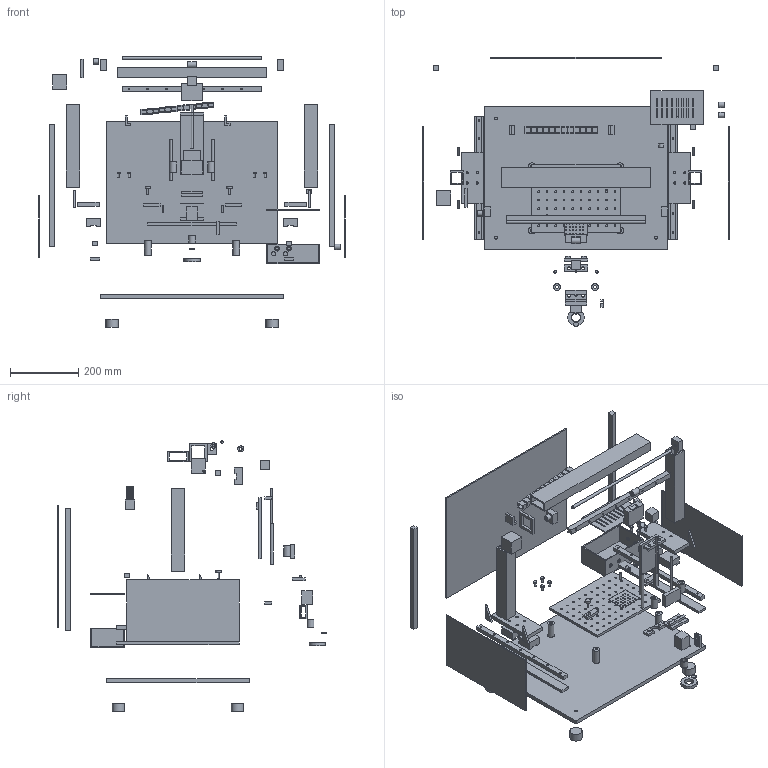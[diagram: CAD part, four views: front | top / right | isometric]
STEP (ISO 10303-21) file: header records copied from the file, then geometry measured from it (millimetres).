
FILE_DESCRIPTION(('Open CASCADE Model'),'2;1');
FILE_NAME('inspection-workstation_exploded','2026-10-03T09:10:39',( 'Author'),('Open CASCADE'),'Open CASCADE STEP processor 7.9', 'build123d','Unknown');
FILE_SCHEMA(('AUTOMOTIVE_DESIGN { 1 0 10303 214 1 1 1 1 }'));
Length unit declared in the file: millimetre
Products named in the file (94): inspection-workstation_exploded; W01; W02_1; W02_2; W02_3; W02_4; W03_0; W04_0; W05_0_0; W05_0_1; W06_0; W07_0; W08_0_0; W08_0_1; W03_1; W04_1; W05_1_0; W05_1_1; W06_1; W07_1; W08_1_0; W08_1_1; W09; W10; W11; W12; W13_0; W13_1; W14; W15; W16; W17; W18; W19_0; W19_1; W20_0; W20_1; W21; W22_0; W22_1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
Assembly tree (93 placements, depth 2):
  inspection-workstation_exploded
    W01
    W02_1
    W02_2
    W02_3
    W02_4
    W03_0
    W04_0
    W05_0_0
    W05_0_1
    W06_0
    W07_0
    W08_0_0
    W08_0_1
    W03_1
    W04_1
    W05_1_0
    W05_1_1
    W06_1
    W07_1
    W08_1_0
    W08_1_1
    W09
    W10
    W11
    W12
    W13_0
    W13_1
    W14
    W15
    W16
    W17
    W18
    W19_0
    W19_1
    W20_0
    W20_1
    W21
    W22_0
    W22_1
    W23
    W24
    W25
    W26
    W27
    W28
    W29
    W30
    W31
    W32_0
    W32_1
    W32_2
    W32_3
    W33_0
    W33_1
    W34_0
    W35_0
    W34_1
    W35_1
    W36
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Bounding box: 900 x 791 x 795 mm (x, y, z)
Volume: 6615114.7 mm3; surface area: 2107477.4 mm2
Topology: 93 solids, 93 shells, 797 faces, 1791 edges, 1194 vertices
Faces by surface type: plane 583, cylinder 214
Full cylindrical faces by diameter (mm): 3 x30, 4.6 x4, 5 x77, 5.4 x1, 5.6 x14, 6 x9, 6.4 x2, 6.6 x12, 8 x5, 8.3 x4, 8.4 x5, 8.6 x7, 10 x10, 12 x4, 14 x4, 16 x5, 18 x1, 20 x7, 26 x1, 36 x4, 48 x1
Entity records: 49107 total; most frequent: CARTESIAN_POINT 8028, DIRECTION 7037, LINE 3963, VECTOR 3963, ORIENTED_EDGE 3582, PCURVE 3582, DEFINITIONAL_REPRESENTATION 3582, EDGE_CURVE 1791
